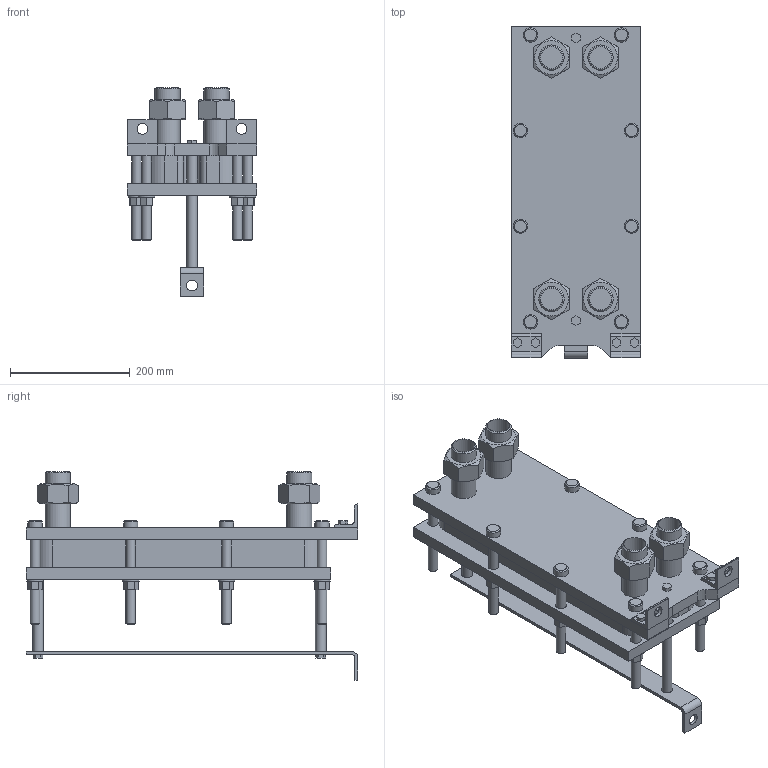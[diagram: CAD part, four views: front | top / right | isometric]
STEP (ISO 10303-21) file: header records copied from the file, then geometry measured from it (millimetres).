
FILE_DESCRIPTION(/* description */ (''),/* implementation_level */ '2;1');
FILE_NAME(/* name */ 'C:\Users\zhuro\Desktop\ENCO\TO\ЭН-004\ЭН-0,5-004-15-1.stp',/* time_stamp */ '2022-06-06T10:44:55+03:00',/* author */ ('zhuro'),/* organization */ (''),/* preprocessor_version */ 'ST-DEVELOPER v18.1',/* originating_system */ 'Autodesk Inventor 2022',/* authorisation */ '');
FILE_SCHEMA (('AUTOMOTIVE_DESIGN { 1 0 10303 214 3 1 1 }'));
Length unit declared in the file: millimetre
Products named in the file (1): ЭН-0,5-004-15-1
Bounding box: 216 x 555 x 349 mm (x, y, z)
Volume: 8943447.8 mm3; surface area: 1059842.7 mm2
Topology: 40 solids, 40 shells, 403 faces, 865 edges, 574 vertices
Faces by surface type: plane 272, cylinder 103, cone 28
Full cylindrical faces by diameter (mm): 10 x4, 16 x16, 18 x29, 20 x2, 24 x8, 28 x8, 36.3 x5, 42.3 x9
Entity records: 11137 total; most frequent: CARTESIAN_POINT 1939, DIRECTION 1879, ORIENTED_EDGE 1730, EDGE_CURVE 865, AXIS2_PLACEMENT_3D 658, VERTEX_POINT 574, LINE 563, VECTOR 563
